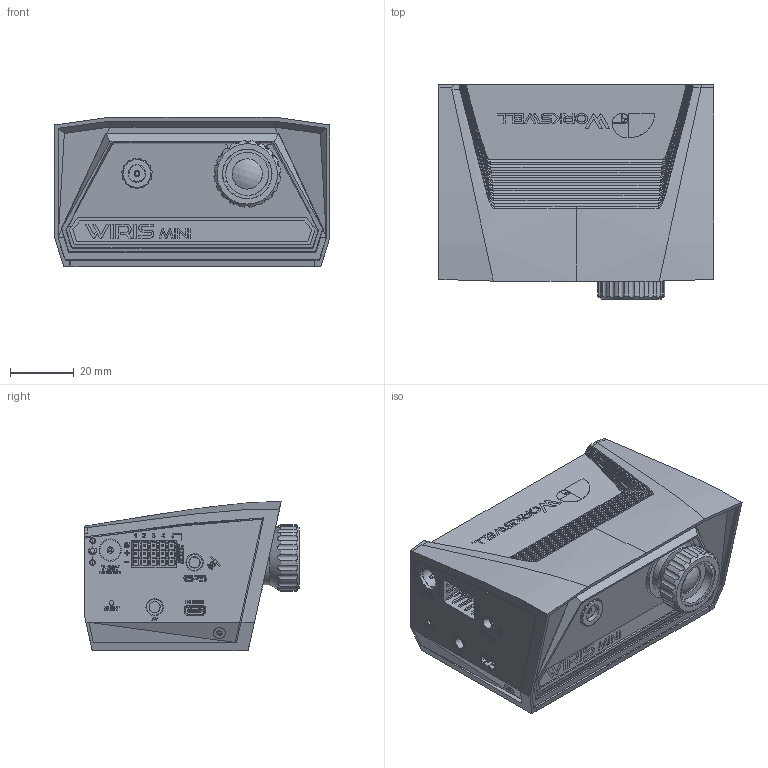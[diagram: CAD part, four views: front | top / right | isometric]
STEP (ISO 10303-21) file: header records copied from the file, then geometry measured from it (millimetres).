
FILE_DESCRIPTION(/* description */ (''),/* implementation_level */ '2;1');
FILE_NAME(/* name */ 'C:\Users\maslik\Desktop\workswell\WIRIS MINI\WIRIS_MINI-stp.stp',/* time_stamp */ '2017-11-06T10:53:23+01:00',/* author */ ('maslik'),/* organization */ (''),/* preprocessor_version */ 'ST-DEVELOPER v16.5',/* originating_system */ 'Autodesk Inventor 2017',/* authorisation */ '');
FILE_SCHEMA (('AUTOMOTIVE_DESIGN { 1 0 10303 214 3 1 1 }'));
Products named in the file (1): WIRIS_MINI-stp
Bounding box: 86.14 x 67.21 x 46.78 mm (x, y, z)
Volume: 131798.4 mm3; surface area: 67614.8 mm2
Topology: 3 solids, 8 shells, 5200 faces, 14257 edges, 9292 vertices
Faces by surface type: plane 3591, cylinder 1104, bspline 398, torus 62, cone 42, sphere 3
Full cylindrical faces by diameter (mm): 0.06 x62, 0.105 x1, 0.385 x1, 0.441 x1, 1 x1, 1.2 x1, 1.3 x1, 1.44 x2, 1.5 x7, 1.7 x6, 1.8 x4, 2 x25, 2.2 x8, 3 x3, 3.4 x4, 3.5 x7, 4 x4, 5 x3, 5.4 x3, 5.5 x1, 5.6 x2, 6.5 x2, 7 x2, 7.3 x1, 8 x1, 9 x1, 9.5 x3, 12.2 x1, 13.5 x1, 15.5 x1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
Entity records: 187862 total; most frequent: CARTESIAN_POINT 51983, ORIENTED_EDGE 27862, DIRECTION 25216, EDGE_CURVE 13926, LINE 10692, VECTOR 10692, VERTEX_POINT 9208, AXIS2_PLACEMENT_3D 7262
